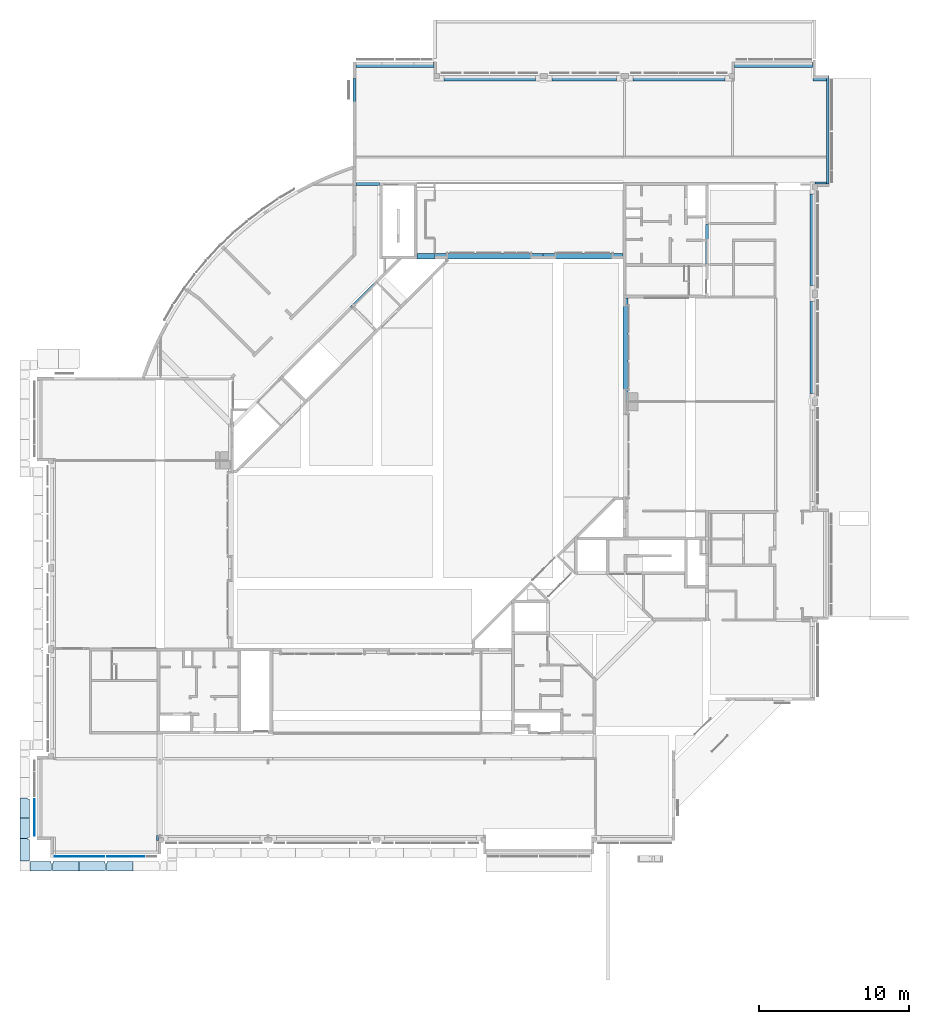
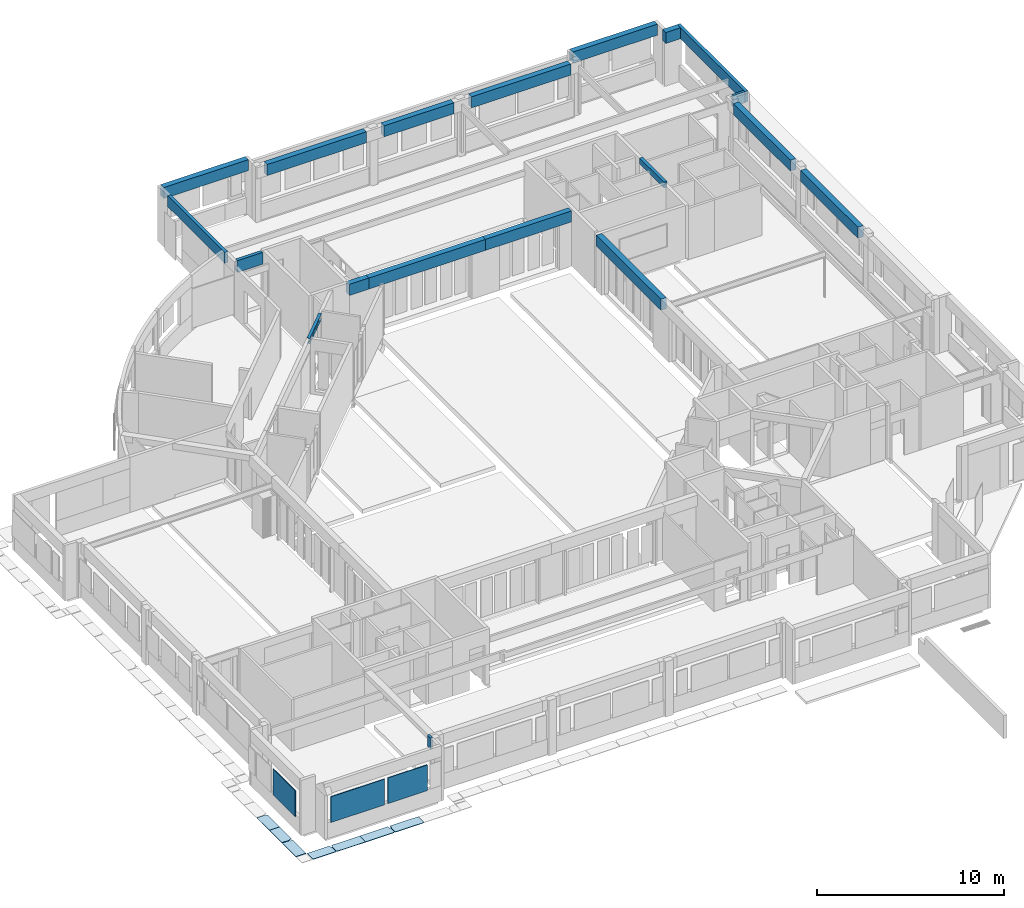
# One storey, part 3 of 30: 19 beams, 7 slabs, 3 plates, 1 element without a shape of its own.
"""IFC4X3_ADD2 building model written with IfcOpenShell, lengths in millimetres."""

from ifc_helpers import new_model, si_unit, direction, frame, frame_2d, origin_with_axes, origin_2d_with_axis, place, context, subcontext, project, spatial, polyline, rectangle, outline, extrude, source, transform, mapped, material, type_object, type_shapes, element, aggregate, save


model = new_model("IFC4X3_ADD2")

# Units and contexts
model_context = context("Model", 3, precision=1e-05, world=origin_with_axes(), true_north=direction((0.0, 1.0)))
body_context = subcontext(model_context, "Body", "Model", "MODEL_VIEW")
ifc_project = project(units=[si_unit("LENGTHUNIT", "METRE", prefix="MILLI"), si_unit("AREAUNIT", "SQUARE_METRE"), si_unit("VOLUMEUNIT", "CUBIC_METRE"), si_unit("PLANEANGLEUNIT", "RADIAN"), si_unit("TIMEUNIT", "SECOND"), si_unit("MASSUNIT", "GRAM")], contexts=[model_context])

# Site, building, storey
site_placement = place(None, origin_with_axes())
site = spatial("IfcSite", under=ifc_project, at=site_placement, Name="Site", CompositionType="ELEMENT")
building_placement = place(site_placement, origin_with_axes())
building = spatial("IfcBuilding", under=site, at=building_placement, Name="IFC Building Story")
storey_placement = place(building_placement, origin_with_axes())
storey = spatial("IfcBuildingStorey", under=building, at=storey_placement, Name="000", Elevation=0.0)

# Beams
ifc_material_1 = material(Name="BB_Beton_Bestaand")
beam_type_1 = type_object("IfcBeamType", Name="BB_XX_Betonbalk_ rechthoekig_ center-center_SFB_340 x 720 mm1", PredefinedType="NOTDEFINED")
shared_shape_1 = source(origin_with_axes(), body_context, "Body", "SweptSolid", [
    extrude(rectangle(XDim=5209.99999999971, YDim=340.0, at=origin_2d_with_axis()), frame((-1.450644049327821e-10, 0.0, -360.0), z_axis=(0.0, 0.0, 1.0), x_axis=(1.0, 0.0, 0.0)), (0.0, 0.0, 1.0), 720.0),
])
type_shapes(beam_type_1, [shared_shape_1])
beam_1_placement = place(storey_placement, frame((-27865.0, 51525.0, 3040.0), z_axis=(0.0, 0.0, 1.0), x_axis=(1.0, 0.0, 0.0)))
element("IfcBeam", 1, at=beam_1_placement, inside=storey, type_object=beam_type_1, material=ifc_material_1, Name="BB_XX_Betonbalk, rechthoekig, center-center_SFB:340 x 720 mm", ObjectType="340 x 720 mm", PredefinedType="BEAM", context=body_context, shape_type="MappedRepresentation", body=[
    mapped(shared_shape_1, transform((0.0, 0.0, 0.0))),
])
beam_type_2 = type_object("IfcBeamType", Name="BB_XX_Betonbalk_ rechthoekig_ center-center_SFB_340 x 720 mm5", PredefinedType="NOTDEFINED")
shared_shape_2 = source(origin_with_axes(), body_context, "Body", "SweptSolid", [
    extrude(rectangle(XDim=6110.000000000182, YDim=339.9999999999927, at=origin_2d_with_axis()), frame((-21564.99999999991, 50624.99999999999, 2680.0), z_axis=(0.0, 0.0, 1.0), x_axis=(1.0, 0.0, 0.0)), (0.0, 0.0, 1.0), 720.0),
])
type_shapes(beam_type_2, [shared_shape_2])
beam_2_placement = place(storey_placement, origin_with_axes())
element("IfcBeam", 2, at=beam_2_placement, inside=storey, type_object=beam_type_2, material=ifc_material_1, Name="BB_XX_Betonbalk, rechthoekig, center-center_SFB:340 x 720 mm", ObjectType="340 x 720 mm", PredefinedType="BEAM", context=body_context, shape_type="MappedRepresentation", body=[
    mapped(shared_shape_2, transform((0.0, 0.0, 0.0))),
])
beam_type_3 = type_object("IfcBeamType", Name="BB_XX_Betonbalk_ rechthoekig_ center-center_SFB_340 x 720 mm7", PredefinedType="NOTDEFINED")
shared_shape_3 = source(origin_with_axes(), body_context, "Body", "SweptSolid", [
    extrude(rectangle(XDim=4310.00000098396, YDim=340.0, at=origin_2d_with_axis()), frame((35.00000049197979, 0.0, -360.0), z_axis=(0.0, 0.0, 1.0), x_axis=(1.0, 0.0, 0.0)), (0.0, 0.0, 1.0), 720.0),
])
type_shapes(beam_type_3, [shared_shape_3])
beam_3_placement = place(storey_placement, frame((-15300.0, 50625.0, 3040.0), z_axis=(0.0, 0.0, 1.0), x_axis=(1.0, 0.0, 0.0)))
element("IfcBeam", 3, at=beam_3_placement, inside=storey, type_object=beam_type_3, material=ifc_material_1, Name="BB_XX_Betonbalk, rechthoekig, center-center_SFB:340 x 720 mm", ObjectType="340 x 720 mm", PredefinedType="BEAM", context=body_context, shape_type="MappedRepresentation", body=[
    mapped(shared_shape_3, transform((0.0, 0.0, 0.0))),
])
beam_type_4 = type_object("IfcBeamType", Name="BB_XX_Betonbalk_ rechthoekig_ center-center_SFB_340 x 720 mm9", PredefinedType="NOTDEFINED")
shared_shape_4 = source(origin_with_axes(), body_context, "Body", "SweptSolid", [
    extrude(rectangle(XDim=6110.00000000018, YDim=340.0, at=origin_2d_with_axis()), frame((-5.002220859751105e-12, 0.0, -360.0), z_axis=(0.0, 0.0, 1.0), x_axis=(1.0, 0.0, 0.0)), (0.0, 0.0, 1.0), 720.0),
])
type_shapes(beam_type_4, [shared_shape_4])
for number, where, z_axis, x_axis in (
    (4, (-8965.0, 50625.0, 3040.0), (0.0, 0.0, 1.0), (1.0, 0.0, 0.0)),
    (5, (-75.0, 32700.0, 3040.0), (0.0, 0.0, 1.0), (0.0, -1.0, 0.0)),
):
    element("IfcBeam", number, at=place(storey_placement, frame(where, z_axis=z_axis, x_axis=x_axis)), inside=storey, type_object=beam_type_4, material=ifc_material_1, Name="BB_XX_Betonbalk, rechthoekig, center-center_SFB:340 x 720 mm", ObjectType="340 x 720 mm", PredefinedType="BEAM", context=body_context, shape_type="MappedRepresentation", body=[
        mapped(shared_shape_4, transform((0.0, 0.0, 0.0))),
    ])
beam_type_5 = type_object("IfcBeamType", Name="BB_XX_Betonbalk_ rechthoekig_ center-center_SFB_340 x 720 mm13", PredefinedType="NOTDEFINED")
shared_shape_5 = source(origin_with_axes(), body_context, "Body", "SweptSolid", [
    extrude(rectangle(XDim=5210.0, YDim=339.9999999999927, at=origin_2d_with_axis()), frame((-2665.0, 51524.99999999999, 2680.0), z_axis=(0.0, 0.0, 1.0), x_axis=(1.0, 0.0, 0.0)), (0.0, 0.0, 1.0), 720.0),
])
type_shapes(beam_type_5, [shared_shape_5])
beam_4_placement = place(storey_placement, origin_with_axes())
element("IfcBeam", 6, at=beam_4_placement, inside=storey, type_object=beam_type_5, material=ifc_material_1, Name="BB_XX_Betonbalk, rechthoekig, center-center_SFB:340 x 720 mm", ObjectType="340 x 720 mm", PredefinedType="BEAM", context=body_context, shape_type="MappedRepresentation", body=[
    mapped(shared_shape_5, transform((0.0, 0.0, 0.0))),
])
beam_type_6 = type_object("IfcBeamType", Name="BB_XX_Betonbalk_ rechthoekig_ center-center_SFB_190 x 720 mm3", PredefinedType="NOTDEFINED")
shared_shape_6 = source(origin_with_axes(), body_context, "Body", "SweptSolid", [
    extrude(rectangle(XDim=7200.00000000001, YDim=190.0, at=origin_2d_with_axis()), frame((-5.002220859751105e-12, 0.0, -360.0), z_axis=(0.0, 0.0, 1.0), x_axis=(1.0, 0.0, 0.0)), (0.0, 0.0, 1.0), 720.0),
])
type_shapes(beam_type_6, [shared_shape_6])
beam_5_placement = place(storey_placement, frame((935.0, 47195.0, 3040.0), z_axis=(0.0, 0.0, 1.0), x_axis=(0.0, -1.0, 0.0)))
element("IfcBeam", 7, at=beam_5_placement, inside=storey, type_object=beam_type_6, material=ifc_material_1, Name="BB_XX_Betonbalk, rechthoekig, center-center_SFB:190 x 720 mm", ObjectType="190 x 720 mm", PredefinedType="BEAM", context=body_context, shape_type="MappedRepresentation", body=[
    mapped(shared_shape_6, transform((0.0, 0.0, 0.0))),
])
beam_type_7 = type_object("IfcBeamType", Name="BB_XX_Betonbalk_ rechthoekig_ center-center_SFB_340 x 720 mm21", PredefinedType="NOTDEFINED")
shared_shape_7 = source(origin_with_axes(), body_context, "Body", "SweptSolid", [
    extrude(rectangle(XDim=6090.0, YDim=340.0, at=origin_2d_with_axis()), frame((-5.002220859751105e-12, 0.0, -360.0), z_axis=(0.0, 0.0, 1.0), x_axis=(1.0, 0.0, 0.0)), (0.0, 0.0, 1.0), 720.0),
])
type_shapes(beam_type_7, [shared_shape_7])
beam_6_placement = place(storey_placement, frame((-75.0, 39890.0, 3040.0), z_axis=(0.0, 0.0, 1.0), x_axis=(0.0, -1.0, 0.0)))
element("IfcBeam", 8, at=beam_6_placement, inside=storey, type_object=beam_type_7, material=ifc_material_1, Name="BB_XX_Betonbalk, rechthoekig, center-center_SFB:340 x 720 mm", ObjectType="340 x 720 mm", PredefinedType="BEAM", context=body_context, shape_type="MappedRepresentation", body=[
    mapped(shared_shape_7, transform((0.0, 0.0, 0.0))),
])
beam_type_8 = type_object("IfcBeamType", Name="BB_XX_Betonbalk_ rechthoekig_ center-center_SFB_340 x 720 mm33", PredefinedType="NOTDEFINED")
shared_shape_8 = source(origin_with_axes(), body_context, "Body", "SweptSolid", [
    extrude(rectangle(XDim=5299.99593411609, YDim=340.0, at=origin_2d_with_axis()), frame((-5.002220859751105e-12, 0.0, -360.0), z_axis=(0.0, 0.0, 1.0), x_axis=(1.0, 0.0, 0.0)), (0.0, 0.0, 1.0), 720.0),
])
type_shapes(beam_type_8, [shared_shape_8])
beam_7_placement = place(storey_placement, frame((-15350.002032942, 38775.0, 3040.0), z_axis=(0.0, 0.0, 1.0), x_axis=(-1.0, 0.0, 0.0)))
element("IfcBeam", 9, at=beam_7_placement, inside=storey, type_object=beam_type_8, material=ifc_material_1, Name="BB_XX_Betonbalk, rechthoekig, center-center_SFB:340 x 720 mm", ObjectType="340 x 720 mm", PredefinedType="BEAM", context=body_context, shape_type="MappedRepresentation", body=[
    mapped(shared_shape_8, transform((0.0, 0.0, 0.0))),
])
beam_type_9 = type_object("IfcBeamType", Name="BB_XX_Betonbalk_ rechthoekig_ center-center_SFB_340 x 720 mm41", PredefinedType="NOTDEFINED")
shared_shape_9 = source(origin_with_axes(), body_context, "Body", "SweptSolid", [
    extrude(rectangle(XDim=340.000000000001, YDim=137.3000000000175, at=frame_2d((0.0, 0.0), x_axis=(0.0, 1.0))), frame((-43676.34999999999, 74.99999999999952, 2680.0), z_axis=(0.0, 0.0, 1.0), x_axis=(1.0, 0.0, 0.0)), (0.0, 0.0, 1.0), 720.0),
])
type_shapes(beam_type_9, [shared_shape_9])
beam_8_placement = place(storey_placement, origin_with_axes())
element("IfcBeam", 10, at=beam_8_placement, inside=storey, type_object=beam_type_9, material=ifc_material_1, Name="BB_XX_Betonbalk, rechthoekig, center-center_SFB:340 x 720 mm", ObjectType="340 x 720 mm", PredefinedType="BEAM", context=body_context, shape_type="MappedRepresentation", body=[
    mapped(shared_shape_9, transform((0.0, 0.0, 0.0))),
])
beam_type_10 = type_object("IfcBeamType", Name="BB_XX_Betonbalk_ rechthoekig_ center-center_SFB_190 x 720 mm7", PredefinedType="NOTDEFINED")
shared_shape_10 = source(origin_with_axes(), body_context, "Body", "SweptSolid", [
    extrude(rectangle(XDim=6094.556089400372, YDim=190.0, at=frame_2d((0.0, 0.0), x_axis=(0.0, 1.0))), frame((-30565.0, 47557.72195529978, 2680.0), z_axis=(0.0, 0.0, 1.0), x_axis=(1.0, 0.0, 0.0)), (0.0, 0.0, 1.0), 720.0),
])
type_shapes(beam_type_10, [shared_shape_10])
beam_9_placement = place(storey_placement, origin_with_axes())
element("IfcBeam", 11, at=beam_9_placement, inside=storey, type_object=beam_type_10, material=ifc_material_1, Name="BB_XX_Betonbalk, rechthoekig, center-center_SFB:190 x 720 mm", ObjectType="190 x 720 mm", PredefinedType="BEAM", context=body_context, shape_type="MappedRepresentation", body=[
    mapped(shared_shape_10, transform((0.0, 0.0, 0.0))),
])
beam_type_11 = type_object("IfcBeamType", Name="BB_XX_Betonbalk_ rechthoekig_ center-center_SFB_340 x 720 mm55", PredefinedType="NOTDEFINED")
shared_shape_11 = source(origin_with_axes(), body_context, "Body", "SweptSolid", [
    extrude(rectangle(XDim=6900.00000000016, YDim=340.0, at=origin_2d_with_axis()), frame((-5.002220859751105e-12, 0.0, -360.0), z_axis=(0.0, 0.0, 1.0), x_axis=(1.0, 0.0, 0.0)), (0.0, 0.0, 1.0), 720.0),
])
type_shapes(beam_type_11, [shared_shape_11])
beam_10_placement = place(storey_placement, frame((-12525.0040658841, 32550.0, 3040.0), z_axis=(0.0, 0.0, 1.0), x_axis=(0.0, 1.0, 0.0)))
element("IfcBeam", 12, at=beam_10_placement, inside=storey, type_object=beam_type_11, material=ifc_material_1, Name="BB_XX_Betonbalk, rechthoekig, center-center_SFB:340 x 720 mm", ObjectType="340 x 720 mm", PredefinedType="BEAM", context=body_context, shape_type="MappedRepresentation", body=[
    mapped(shared_shape_11, transform((0.0, 0.0, 0.0))),
])
beam_type_12 = type_object("IfcBeamType", Name="BB_XX_Betonbalk_ rechthoekig_ center-center_SFB_340 x 720 mm65", PredefinedType="NOTDEFINED")
shared_shape_12 = source(origin_with_axes(), body_context, "Body", "SweptSolid", [
    extrude(rectangle(XDim=7200.0, YDim=340.0, at=origin_2d_with_axis()), frame((-21600.0, 38774.99593411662, 2680.0), z_axis=(0.0, 0.0, 1.0), x_axis=(1.0, 0.0, 0.0)), (0.0, 0.0, 1.0), 720.0),
])
type_shapes(beam_type_12, [shared_shape_12])
beam_11_placement = place(storey_placement, origin_with_axes())
element("IfcBeam", 13, at=beam_11_placement, inside=storey, type_object=beam_type_12, material=ifc_material_1, Name="BB_XX_Betonbalk, rechthoekig, center-center_SFB:340 x 720 mm", ObjectType="340 x 720 mm", PredefinedType="BEAM", context=body_context, shape_type="MappedRepresentation", body=[
    mapped(shared_shape_12, transform((0.0, 0.0, 0.0))),
])
beam_type_13 = type_object("IfcBeamType", Name="BB_XX_Betonbalk_ rechthoekig_ center-center_SFB_340 x 720 mm67", PredefinedType="NOTDEFINED")
shared_shape_13 = source(origin_with_axes(), body_context, "Body", "SweptSolid", [
    extrude(rectangle(XDim=1200.000000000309, YDim=340.0, at=origin_2d_with_axis()), frame((-25800.00000000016, 38775.00000000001, 2680.0), z_axis=(0.0, 0.0, 1.0), x_axis=(1.0, 0.0, 0.0)), (0.0, 0.0, 1.0), 720.0),
])
type_shapes(beam_type_13, [shared_shape_13])
beam_12_placement = place(storey_placement, origin_with_axes())
element("IfcBeam", 14, at=beam_12_placement, inside=storey, type_object=beam_type_13, material=ifc_material_1, Name="BB_XX_Betonbalk, rechthoekig, center-center_SFB:340 x 720 mm", ObjectType="340 x 720 mm", PredefinedType="BEAM", context=body_context, shape_type="MappedRepresentation", body=[
    mapped(shared_shape_13, transform((0.0, 0.0, 0.0))),
])
beam_type_14 = type_object("IfcBeamType", Name="BB_XX_Betonbalk_ rechthoekig_ center-center_SFB_150 x 720 mm1", PredefinedType="NOTDEFINED")
shared_shape_14 = source(origin_with_axes(), body_context, "Body", "SweptSolid", [
    extrude(rectangle(XDim=745.000000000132, YDim=150.0, at=origin_2d_with_axis()), frame((467.500000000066, 43650.0, 2680.0), z_axis=(0.0, 0.0, 1.0), x_axis=(1.0, 0.0, 0.0)), (0.0, 0.0, 1.0), 720.0),
])
type_shapes(beam_type_14, [shared_shape_14])
beam_13_placement = place(storey_placement, origin_with_axes())
element("IfcBeam", 15, at=beam_13_placement, inside=storey, type_object=beam_type_14, material=ifc_material_1, Name="BB_XX_Betonbalk, rechthoekig, center-center_SFB:150 x 720 mm", ObjectType="150 x 720 mm", PredefinedType="BEAM", context=body_context, shape_type="MappedRepresentation", body=[
    mapped(shared_shape_14, transform((0.0, 0.0, 0.0))),
])
beam_type_15 = type_object("IfcBeamType", Name="BB_XX_Betonbalk_ rechthoekig_ center-center_SFB_340 x 720 mm71", PredefinedType="NOTDEFINED")
shared_shape_15 = source(origin_with_axes(), body_context, "Body", "SweptSolid", [
    extrude(rectangle(XDim=899.999999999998, YDim=340.0, at=origin_2d_with_axis()), frame((47.50000000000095, 0.0, -360.0), z_axis=(0.0, 0.0, 1.0), x_axis=(1.0, 0.0, 0.0)), (0.0, 0.0, 1.0), 720.0),
])
type_shapes(beam_type_15, [shared_shape_15])
beam_14_placement = place(storey_placement, frame((437.499999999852, 50625.0, 3040.0), z_axis=(0.0, 0.0, 1.0), x_axis=(-1.0, 0.0, 0.0)))
element("IfcBeam", 16, at=beam_14_placement, inside=storey, type_object=beam_type_15, material=ifc_material_1, Name="BB_XX_Betonbalk, rechthoekig, center-center_SFB:340 x 720 mm", ObjectType="340 x 720 mm", PredefinedType="BEAM", context=body_context, shape_type="MappedRepresentation", body=[
    mapped(shared_shape_15, transform((0.0, 0.0, 0.0))),
])
beam_type_16 = type_object("IfcBeamType", Name="BB_XX_Betonbalk_ rechthoekig_ center-center_SFB_200 x 380 mm", PredefinedType="NOTDEFINED")
shared_shape_16 = source(origin_with_axes(), body_context, "Body", "SweptSolid", [
    extrude(rectangle(XDim=2599.99999999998, YDim=200.0, at=origin_2d_with_axis()), frame((-1.000444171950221e-11, 0.0, -190.0), z_axis=(0.0, 0.0, 1.0), x_axis=(1.0, 0.0, 0.0)), (0.0, 0.0, 1.0), 380.0),
])
type_shapes(beam_type_16, [shared_shape_16])
beam_15_placement = place(storey_placement, frame((-7100.0, 39600.0, 3330.0), z_axis=(0.0, 0.0, 1.0), x_axis=(0.0, 1.0, 0.0)))
element("IfcBeam", 17, at=beam_15_placement, inside=storey, type_object=beam_type_16, material=ifc_material_1, Name="BB_XX_Betonbalk, rechthoekig, center-center_SFB:200 x 380 mm", ObjectType="200 x 380 mm", PredefinedType="BEAM", context=body_context, shape_type="MappedRepresentation", body=[
    mapped(shared_shape_16, transform((0.0, 0.0, 0.0))),
])
beam_type_17 = type_object("IfcBeamType", Name="BB_XX_Betonbalk_ rechthoekig_ center-center_SFB_200 x 770 mm", PredefinedType="NOTDEFINED")
shared_shape_17 = source(origin_with_axes(), body_context, "Body", "SweptSolid", [
    extrude(rectangle(XDim=1570.0, YDim=200.0, at=origin_2d_with_axis()), frame((-29685.0, 43600.0, 2630.0), z_axis=(0.0, 0.0, 1.0), x_axis=(1.0, 0.0, 0.0)), (0.0, 0.0, 1.0), 770.0),
])
type_shapes(beam_type_17, [shared_shape_17])
beam_16_placement = place(storey_placement, origin_with_axes())
element("IfcBeam", 18, at=beam_16_placement, inside=storey, type_object=beam_type_17, material=ifc_material_1, Name="BB_XX_Betonbalk, rechthoekig, center-center_SFB:200 x 770 mm", ObjectType="200 x 770 mm", PredefinedType="BEAM", context=body_context, shape_type="MappedRepresentation", body=[
    mapped(shared_shape_17, transform((0.0, 0.0, 0.0))),
])

# Assembly, beam
assembly_placement = place(storey_placement, origin_with_axes())
assembly = element("IfcElementAssembly", 19, at=assembly_placement, inside=storey, Name="Structural Connections Assembly:IPE360 + plaat", ObjectType="Structural Connections Assembly:IPE360 + plaat", AssemblyPlace="NOTDEFINED", PredefinedType="USERDEFINED")
ifc_material_2 = material(Name="Metal - Steel - 345 MPa")
beam_type_18 = type_object("IfcBeamType", Name="IPE-Beams_IPE360", PredefinedType="NOTDEFINED")
shared_shape_18 = source(origin_with_axes(), body_context, "Body", "SweptSolid", [
    extrude(outline(polyline([(179.9999999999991, 85.0), (179.9999999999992, -84.9999999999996), (167.3000000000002, -84.9999999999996), (167.3000000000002, -4.0), (-167.2999999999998, -4.0), (-167.2999999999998, -85.0), (-179.9999999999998, -85.0), (-179.9999999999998, 85.0), (-167.2999999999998, 85.0), (-167.2999999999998, 3.999999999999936), (167.3000000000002, 3.999999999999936), (167.3000000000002, 85.0), (179.9999999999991, 85.0)])), frame((-925.267324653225, 0.0, 0.0), z_axis=(1.0, 0.0, 0.0), x_axis=(0.0, 0.0, 1.0)), (0.0, 0.0, 1.0), 2419.99999999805),
])
type_shapes(beam_type_18, [shared_shape_18])
beam_17_placement = place(assembly_placement, frame((-29732.7817459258, 36421.6338417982, 3230.0), z_axis=(0.0, 0.0, 1.0), x_axis=(-0.7071067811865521, -0.707106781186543, 0.0)))
beam_17 = element("IfcBeam", 20, at=beam_17_placement, type_object=beam_type_18, material=ifc_material_2, Name="IPE-Beams:IPE360", ObjectType="IPE360", PredefinedType="BEAM", context=body_context, shape_type="MappedRepresentation", body=[
    mapped(shared_shape_18, transform((0.0, 0.0, 0.0))),
])
aggregate(assembly, [beam_17])

# Plates
ifc_material_3 = material(Name="BB_Glas")
shared_shape_19 = source(origin_with_axes(), body_context, "Body", "SweptSolid", [
    extrude(rectangle(XDim=2432.0, YDim=1680.000000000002, at=origin_2d_with_axis()), frame((0.0, 0.0, -44.0), z_axis=(0.0, 0.0, 1.0), x_axis=(1.0, 0.0, 0.0)), (0.0, 0.0, 1.0), 44.0),
])
plate_1_placement = place(storey_placement, frame((-45784.0, -1187.49999999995, 1765.0), z_axis=(0.0, -1.0, 0.0), x_axis=(-1.0, 0.0, 0.0)))
element("IfcPlate", 21, at=plate_1_placement, inside=storey, material=ifc_material_3, Name="BB_07.06_Buitenbeglazing, rechthoekig_GMO:07.06.72#02_Drievoudige beglazing, 44 mm, A/A*/P4A RC2, -1 en +0", ObjectType="BB_07.06_Buitenbeglazing, rechthoekig_GMO:07.06.72#02_Drievoudige beglazing, 44 mm, A/A*/P4A RC2, -1 en +0", PredefinedType="USERDEFINED", context=body_context, shape_type="MappedRepresentation", body=[
    mapped(shared_shape_19, transform((0.0, 0.0, 0.0))),
])
shared_shape_20 = source(origin_with_axes(), body_context, "Body", "SweptSolid", [
    extrude(rectangle(XDim=3300.0, YDim=1680.000000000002, at=origin_2d_with_axis()), frame((0.0, 0.0, -44.0), z_axis=(0.0, 0.0, 1.0), x_axis=(1.0, 0.0, 0.0)), (0.0, 0.0, 1.0), 44.0),
])
plate_2_placement = place(storey_placement, frame((-48850.0, -1187.49999999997, 1765.0), z_axis=(0.0, -1.0, 0.0), x_axis=(-1.0, 0.0, 0.0)))
element("IfcPlate", 22, at=plate_2_placement, inside=storey, material=ifc_material_3, Name="BB_07.06_Buitenbeglazing, rechthoekig_GMO:07.06.72#02_Drievoudige beglazing, 44 mm, A/A*/P4A RC2, -1 en +0", ObjectType="BB_07.06_Buitenbeglazing, rechthoekig_GMO:07.06.72#02_Drievoudige beglazing, 44 mm, A/A*/P4A RC2, -1 en +0", PredefinedType="USERDEFINED", context=body_context, shape_type="MappedRepresentation", body=[
    mapped(shared_shape_20, transform((0.0, 0.0, 0.0))),
])
shared_shape_21 = source(origin_with_axes(), body_context, "Body", "SweptSolid", [
    extrude(rectangle(XDim=2400.0, YDim=1680.000000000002, at=origin_2d_with_axis()), frame((0.0, 0.0, -44.0), z_axis=(0.0, 0.0, 1.0), x_axis=(1.0, 0.0, 0.0)), (0.0, 0.0, 1.0), 44.0),
])
plate_3_placement = place(storey_placement, frame((-51887.5000000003, 1430.0, 1765.0), z_axis=(-1.0, 0.0, 0.0), x_axis=(0.0, -1.0, 0.0)))
element("IfcPlate", 23, at=plate_3_placement, inside=storey, material=ifc_material_3, Name="BB_07.06_Buitenbeglazing, rechthoekig_GMO:07.06.72#02_Drievoudige beglazing, 44 mm, A/A*/P4A RC2, -1 en +0", ObjectType="BB_07.06_Buitenbeglazing, rechthoekig_GMO:07.06.72#02_Drievoudige beglazing, 44 mm, A/A*/P4A RC2, -1 en +0", PredefinedType="USERDEFINED", context=body_context, shape_type="MappedRepresentation", body=[
    mapped(shared_shape_21, transform((0.0, 0.0, 0.0))),
])

# Slabs
ifc_material_4 = material(Name="Steel, Galvanized - looprooster")
slab_type = type_object("IfcSlabType", Name="Steel, Galvanized - looprooster 30", PredefinedType="FLOOR", material=ifc_material_4)
slab_1_placement = place(storey_placement, frame((-52819.99783771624, 2714.999963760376, -350.0), z_axis=(0.0, 0.0, 1.0), x_axis=(0.0, -1.0, 0.0)))
element("IfcSlab", 24, at=slab_1_placement, inside=storey, type_object=slab_type, Name="Floor:GVH - Looprooster 30 mm", ObjectType="Floor:GVH - Looprooster 30 mm", PredefinedType="FLOOR", context=body_context, shape_type="SweptSolid", body=[
    extrude(outline(polyline([(-316.5004999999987, 347.5013254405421), (966.501499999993, 347.5013254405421), (966.501499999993, -282.4986745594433), (-281.5004999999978, -282.4986745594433), (-281.5004999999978, -267.5009748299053), (-368.500499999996, -267.5009748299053), (-368.500499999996, 202.4983239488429), (-316.5004999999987, 202.4983239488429), (-316.5004999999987, 347.5013254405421)])), frame((368.500499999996, 282.4986745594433, 0.0), z_axis=(0.0, 0.0, 1.0), x_axis=(1.0, 0.0, 0.0)), (0.0, 0.0, 1.0), 30.0),
])
slab_2_placement = place(storey_placement, frame((-52819.99783771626, 1379.997963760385, -350.0), z_axis=(0.0, 0.0, 1.0), x_axis=(0.0, -1.0, 0.0)))
element("IfcSlab", 25, at=slab_2_placement, inside=storey, type_object=slab_type, Name="Floor:GVH - Looprooster 30 mm", ObjectType="Floor:GVH - Looprooster 30 mm", PredefinedType="FLOOR", context=body_context, shape_type="SweptSolid", body=[
    extrude(outline(polyline([(359.7514499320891, -267.5009748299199), (307.7476502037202, -267.5009748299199), (307.7476502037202, -282.4986745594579), (-975.2505500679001, -282.4986745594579), (-975.250550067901, 347.5013254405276), (307.7514499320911, 347.5013254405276), (307.751449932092, 202.4983239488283), (359.7514499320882, 202.4983239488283), (359.7514499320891, -267.5009748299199)])), frame((975.250550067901, 282.4986745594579, 0.0), z_axis=(0.0, 0.0, 1.0), x_axis=(1.0, 0.0, 0.0)), (0.0, 0.0, 1.0), 30.0),
])
slab_3_placement = place(storey_placement, frame((-52819.99783771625, 14.99996376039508, -350.0), z_axis=(0.0, 0.0, 1.0), x_axis=(0.0, -1.0, 0.0)))
element("IfcSlab", 26, at=slab_3_placement, inside=storey, type_object=slab_type, Name="Floor:GVH - Looprooster 30 mm", ObjectType="Floor:GVH - Looprooster 30 mm", PredefinedType="FLOOR", context=body_context, shape_type="SweptSolid", body=[
    extrude(outline(polyline([(-340.6256261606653, 347.5013254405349), (1073.873078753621, 347.5013254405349), (1073.873078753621, -282.4986745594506), (-340.6218264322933, -282.4986745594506), (-340.6218264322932, -267.5009748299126), (-392.6256261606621, -267.5009748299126), (-392.6256261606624, 202.4983239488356), (-340.6256261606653, 202.4983239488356), (-340.6256261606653, 347.5013254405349)])), frame((392.6256261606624, 282.4986745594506, 0.0), z_axis=(0.0, 0.0, 1.0), x_axis=(1.0, 0.0, 0.0)), (0.0, 0.0, 1.0), 30.0),
])
slab_4_placement = place(storey_placement, frame((-52151.49839785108, -2119.998397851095, -350.0), z_axis=(0.0, 0.0, 1.0), x_axis=(1.0, 0.0, 0.0)))
element("IfcSlab", 27, at=slab_4_placement, inside=storey, type_object=slab_type, Name="Floor:GVH - Looprooster 30 mm", ObjectType="Floor:GVH - Looprooster 30 mm", PredefinedType="FLOOR", context=body_context, shape_type="SweptSolid", body=[
    extrude(outline(polyline([(333.1246085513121, -267.4995632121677), (333.1246085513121, -282.4992199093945), (-1051.373825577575, -282.4992199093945), (-1051.373825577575, 347.5004367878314), (333.1246085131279, 347.5004367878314), (333.1246085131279, 202.4983463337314), (385.1246085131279, 202.4983463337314), (385.1246085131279, -267.4995632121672), (333.1246085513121, -267.4995632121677)])), frame((1051.373825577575, 282.4992199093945, 0.0), z_axis=(0.0, 0.0, 1.0), x_axis=(1.0, 0.0, 0.0)), (0.0, 0.0, 1.0), 30.0),
])
slab_5_placement = place(storey_placement, frame((-50684.99600000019, -2119.998397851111, -350.0), z_axis=(0.0, 0.0, 1.0), x_axis=(1.0, 0.0, 0.0)))
element("IfcSlab", 28, at=slab_5_placement, inside=storey, type_object=slab_type, Name="Floor:GVH - Looprooster 30 mm", ObjectType="Floor:GVH - Looprooster 30 mm", PredefinedType="FLOOR", context=body_context, shape_type="SweptSolid", body=[
    extrude(outline(polyline([(-420.2495181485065, -282.499218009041), (-420.2495181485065, -267.499561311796), (-472.2494818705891, -267.499561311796), (-472.2494818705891, 202.498340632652), (-420.2495181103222, 202.498340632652), (-420.2495181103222, 347.500438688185), (1312.748518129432, 347.500438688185), (1312.748518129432, -282.499218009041), (-420.2495181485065, -282.499218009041)])), frame((472.2494818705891, 282.499218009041, 0.0), z_axis=(0.0, 0.0, 1.0), x_axis=(1.0, 0.0, 0.0)), (0.0, 0.0, 1.0), 30.0),
])
slab_6_placement = place(storey_placement, frame((-48899.99800000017, -2119.998397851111, -350.0), z_axis=(0.0, 0.0, 1.0), x_axis=(1.0, 0.0, 0.0)))
element("IfcSlab", 29, at=slab_6_placement, inside=storey, type_object=slab_type, Name="Floor:GVH - Looprooster 30 mm", ObjectType="Floor:GVH - Looprooster 30 mm", PredefinedType="FLOOR", context=body_context, shape_type="SweptSolid", body=[
    extrude(outline(polyline([(393.9995181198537, -267.499561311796), (393.9995181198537, -282.499218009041), (-1303.998518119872, -282.499218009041), (-1303.998518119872, 347.5004386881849), (428.9995181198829, 347.5004386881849), (428.9995181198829, 202.4983406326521), (480.9994818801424, 202.4983406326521), (480.9994818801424, -267.499561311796), (393.9995181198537, -267.499561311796)])), frame((1303.998518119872, 282.499218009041, 0.0), z_axis=(0.0, 0.0, 1.0), x_axis=(1.0, 0.0, 0.0)), (0.0, 0.0, 1.0), 30.0),
])
slab_7_placement = place(storey_placement, frame((-47084.99839785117, -2119.998397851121, -350.0), z_axis=(0.0, 0.0, 1.0), x_axis=(1.0, 0.0, 0.0)))
element("IfcSlab", 30, at=slab_7_placement, inside=storey, type_object=slab_type, Name="Floor:GVH - Looprooster 30 mm", ObjectType="Floor:GVH - Looprooster 30 mm", PredefinedType="FLOOR", context=body_context, shape_type="SweptSolid", body=[
    extrude(outline(polyline([(-393.9993836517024, -282.499218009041), (-393.9993836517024, -267.499561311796), (-480.9995267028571, -267.499561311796), (-480.9995267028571, 202.4983406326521), (-428.9995629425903, 202.4983406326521), (-428.9995629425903, 347.5004386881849), (1303.998473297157, 347.5004386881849), (1303.998473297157, -282.499218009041), (-393.9993836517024, -282.499218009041)])), frame((480.9995267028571, 282.499218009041, 0.0), z_axis=(0.0, 0.0, 1.0), x_axis=(1.0, 0.0, 0.0)), (0.0, 0.0, 1.0), 30.0),
])

save(model, "model.ifc")
